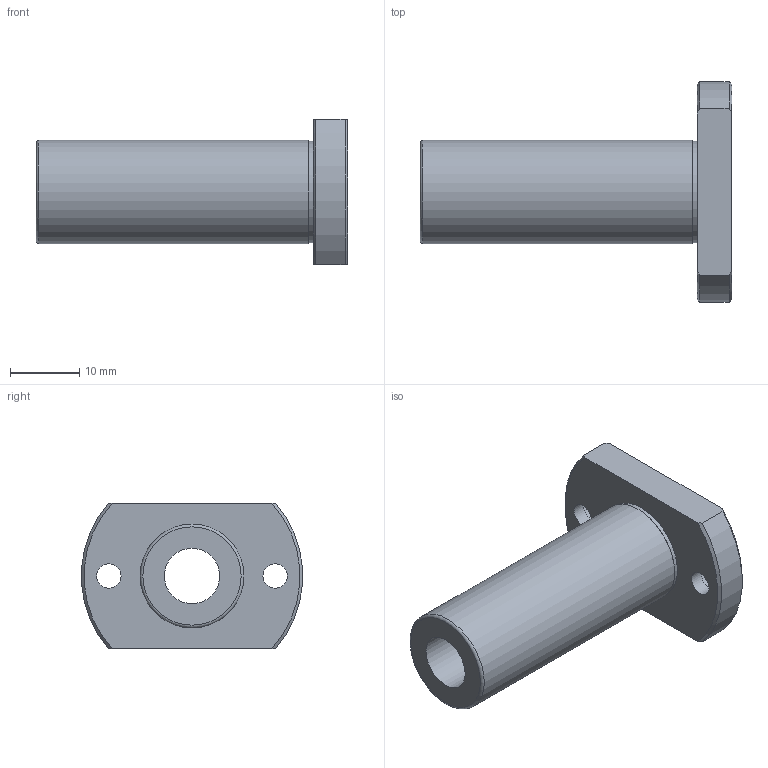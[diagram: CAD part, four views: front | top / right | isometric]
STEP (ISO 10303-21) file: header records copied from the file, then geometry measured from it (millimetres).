
FILE_DESCRIPTION(('STEP AP203'),'1');
FILE_NAME('//192.168.1.1/share/s-4 技術開発/s-4-4_CAD/s-4-4-3_見直し済み/002 修正済み/NFEO-VL/NFEO-VL_TOP/NFEO-8VLUU.step','2022-03-07T05:15:40',(' '),(' '),'Spatial InterOp 3D',' ',' ');
FILE_SCHEMA(('CONFIG_CONTROL_DESIGN'));
Length unit declared in the file: millimetre
Products named in the file (1): 1
Bounding box: 45 x 31.9 x 21 mm (x, y, z)
Volume: 7681.1 mm3; surface area: 4729.1 mm2
Topology: 1 solids, 1 shells, 22 faces, 51 edges, 35 vertices
Faces by surface type: cylinder 9, plane 8, cone 4, torus 1
Full cylindrical faces by diameter (mm): 3.5 x2, 6 x2, 8 x1, 14.7 x1, 15 x1
Entity records: 630 total; most frequent: CARTESIAN_POINT 117, DIRECTION 100, ORIENTED_EDGE 78, AXIS2_PLACEMENT_3D 46, EDGE_LOOP 40, EDGE_CURVE 39, VERTEX_POINT 31, FACE_OUTER_BOUND 30
